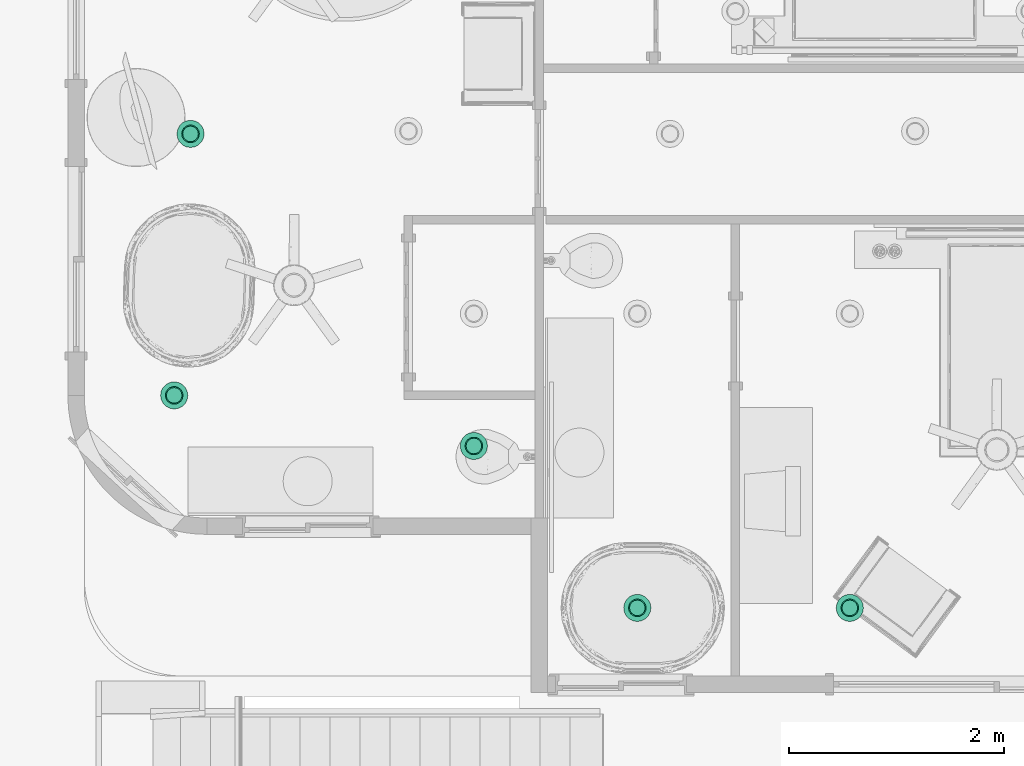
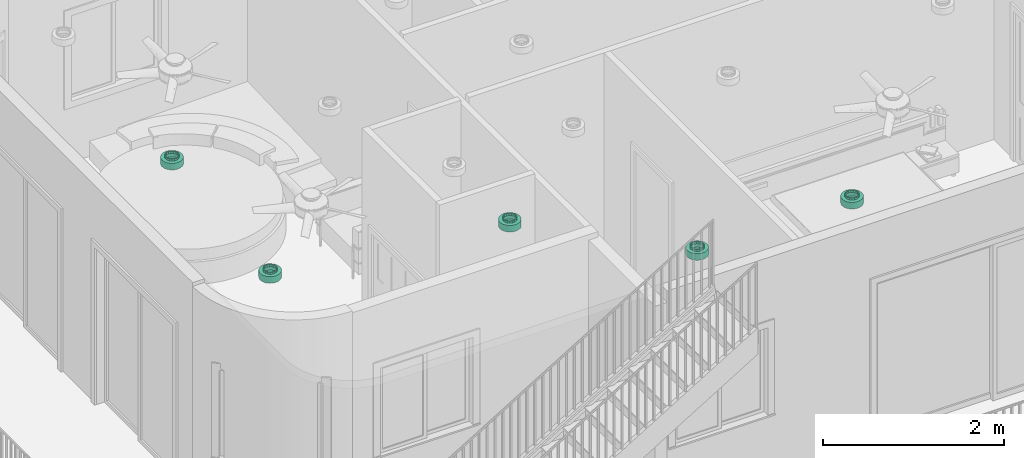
# One storey, part 12 of 28: 5 flow terminals.
"""IFC2X3 building model written with IfcOpenShell, lengths in feet."""

from ifc_helpers import new_model, entity, si_unit, converted_unit, derived_unit, direction, frame, origin, place, context, subcontext, project, spatial, faceted_brep, source, transform, mapped, material, material_list, type_object, type_shapes, element, save


model = new_model("IFC2X3")

# Units and contexts
model_context = context("Model", 3, precision=0.0001, world=origin(), true_north=direction((6.12303176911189e-17, 1.0)))
body_context = subcontext(model_context, "Body", "Model", "MODEL_VIEW")
ifc_project = project(units=[converted_unit("LENGTHUNIT", "FOOT", entity("IfcRatioMeasure", 0.3048), si_unit("LENGTHUNIT", "METRE"), dimensions=[1, 0, 0, 0, 0, 0, 0]), converted_unit("AREAUNIT", "SQUARE FOOT", entity("IfcRatioMeasure", 0.09290304), si_unit("AREAUNIT", "SQUARE_METRE"), dimensions=[2, 0, 0, 0, 0, 0, 0]), converted_unit("VOLUMEUNIT", "CUBIC FOOT", entity("IfcRatioMeasure", 0.028316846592), si_unit("VOLUMEUNIT", "CUBIC_METRE"), dimensions=[3, 0, 0, 0, 0, 0, 0]), converted_unit("PLANEANGLEUNIT", "DEGREE", entity("IfcRatioMeasure", 0.0174532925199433), si_unit("PLANEANGLEUNIT", "RADIAN"), dimensions=[0, 0, 0, 0, 0, 0, 0]), si_unit("MASSUNIT", "GRAM", prefix="KILO"), derived_unit("MASSDENSITYUNIT", [(si_unit("MASSUNIT", "GRAM", prefix="KILO"), 1), (si_unit("LENGTHUNIT", "METRE"), -3)]), si_unit("TIMEUNIT", "SECOND"), si_unit("FREQUENCYUNIT", "HERTZ"), si_unit("THERMODYNAMICTEMPERATUREUNIT", "DEGREE_CELSIUS"), derived_unit("THERMALTRANSMITTANCEUNIT", [(si_unit("MASSUNIT", "GRAM", prefix="KILO"), 1), (si_unit("THERMODYNAMICTEMPERATUREUNIT", "KELVIN"), -1), (si_unit("TIMEUNIT", "SECOND"), -3)]), derived_unit("VOLUMETRICFLOWRATEUNIT", [(si_unit("LENGTHUNIT", "METRE"), 3), (si_unit("TIMEUNIT", "SECOND"), -1)]), si_unit("ELECTRICCURRENTUNIT", "AMPERE"), si_unit("ELECTRICVOLTAGEUNIT", "VOLT"), si_unit("POWERUNIT", "WATT"), si_unit("FORCEUNIT", "NEWTON"), si_unit("ILLUMINANCEUNIT", "LUX"), si_unit("LUMINOUSFLUXUNIT", "LUMEN"), si_unit("LUMINOUSINTENSITYUNIT", "CANDELA"), derived_unit("USERDEFINED", [(si_unit("MASSUNIT", "GRAM", prefix="KILO"), -1), (si_unit("LENGTHUNIT", "METRE"), -2), (si_unit("TIMEUNIT", "SECOND"), 3), (si_unit("LUMINOUSFLUXUNIT", "LUMEN"), 1)]), derived_unit("LINEARVELOCITYUNIT", [(si_unit("LENGTHUNIT", "METRE"), 1), (si_unit("TIMEUNIT", "SECOND"), -1)]), si_unit("PRESSUREUNIT", "PASCAL"), derived_unit("USERDEFINED", [(si_unit("LENGTHUNIT", "METRE"), -2), (si_unit("MASSUNIT", "GRAM", prefix="KILO"), 1), (si_unit("TIMEUNIT", "SECOND"), -2)])], contexts=[model_context])

# Site, building, storey
site_placement = place(None, origin())
site = spatial("IfcSite", under=ifc_project, at=site_placement, Name="表面", CompositionType="ELEMENT")
building_placement = place(site_placement, origin())
building = spatial("IfcBuilding", under=site, at=building_placement, CompositionType="ELEMENT")
storey_placement = place(building_placement, frame((0.0, 0.0, 10.0)))
storey = spatial("IfcBuildingStorey", under=building, at=storey_placement, Name="Level 2", CompositionType="ELEMENT", Elevation=9.99999999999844)

# Flow terminals
ifc_material_1 = material(Name="Metal - Paint Finish - Dark Gray, Matte")
ifc_material_2 = material(Name="Glass - White, High Luminance")
ifc_material_list_1 = material_list([ifc_material_1, ifc_material_2])
ifc_material_list_2 = material_list([ifc_material_1, ifc_material_2])
light_fixture_type = type_object("IfcLightFixtureType", Name="100W - 277V", PredefinedType="NOTDEFINED", material=ifc_material_list_2)
shared_shape = source(origin(), body_context, "Body", "Brep", [
    faceted_brep([(0.557291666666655, 0.187326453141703, 0.374999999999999), (0.598651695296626, 0.245098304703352, 0.374999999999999), (0.558098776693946, 0.218001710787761, 0.374999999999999), (0.629345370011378, 0.247786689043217, 0.374999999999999), (0.517545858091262, 0.190905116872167, 0.374999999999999), (0.468904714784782, 0.155156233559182, 0.374999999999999), (0.625748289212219, 0.285651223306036, 0.374999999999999), (0.65284488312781, 0.326204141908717, 0.374999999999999), (0.676375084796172, 0.329244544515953, 0.374999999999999), (0.6623599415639, 0.374039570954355, 0.374999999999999), (0.671874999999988, 0.42187499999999, 0.374999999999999), (0.692708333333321, 0.421874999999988, 0.374999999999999), (0.676375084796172, 0.514505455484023, 0.374999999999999), (0.662359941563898, 0.469710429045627, 0.374999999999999), (0.652844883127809, 0.517545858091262, 0.374999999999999), (0.629345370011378, 0.595963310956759, 0.374999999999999), (0.625748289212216, 0.558098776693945, 0.374999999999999), (0.598651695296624, 0.598651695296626, 0.374999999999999), (0.557291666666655, 0.656423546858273, 0.374999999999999), (0.55809877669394, 0.625748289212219, 0.374999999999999), (0.517545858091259, 0.65284488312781, 0.374999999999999), (0.468904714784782, 0.688593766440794, 0.374999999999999), (0.469710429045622, 0.662359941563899, 0.374999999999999), (0.421874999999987, 0.671874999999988, 0.374999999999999), (0.374845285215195, 0.688593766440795, 0.374999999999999), (0.374039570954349, 0.662359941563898, 0.374999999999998), (0.326204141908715, 0.652844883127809, 0.374999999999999), (0.286458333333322, 0.656423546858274, 0.374999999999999), (0.285651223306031, 0.625748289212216, 0.374999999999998), (0.245098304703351, 0.598651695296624, 0.374999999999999), (0.214404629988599, 0.59596331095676, 0.374999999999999), (0.218001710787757, 0.558098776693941, 0.374999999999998), (0.190905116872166, 0.51754585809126, 0.374999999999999), (0.167374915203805, 0.514505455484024, 0.374999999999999), (0.181390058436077, 0.469710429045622, 0.374999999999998), (0.171874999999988, 0.421874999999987, 0.374999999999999), (0.151041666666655, 0.421874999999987, 0.374999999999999), (0.167374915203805, 0.329244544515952, 0.374999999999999), (0.181390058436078, 0.374039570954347, 0.374999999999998), (0.190905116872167, 0.326204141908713, 0.374999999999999), (0.214404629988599, 0.247786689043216, 0.374999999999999), (0.218001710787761, 0.28565122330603, 0.374999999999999), (0.245098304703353, 0.245098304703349, 0.374999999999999), (0.286458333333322, 0.187326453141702, 0.374999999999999), (0.285651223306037, 0.218001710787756, 0.374999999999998), (0.326204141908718, 0.190905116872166, 0.374999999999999), (0.374845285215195, 0.155156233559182, 0.374999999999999), (0.42187499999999, 0.171874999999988, 0.374999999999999), (0.374039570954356, 0.181390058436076, 0.374999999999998), (0.469710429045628, 0.181390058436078, 0.374999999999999), (0.557291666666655, 0.656423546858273, 0.291666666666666), (0.598651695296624, 0.598651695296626, 0.291666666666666), (0.55809877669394, 0.625748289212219, 0.291666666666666), (0.629345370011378, 0.595963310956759, 0.291666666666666), (0.517545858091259, 0.65284488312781, 0.291666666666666), (0.468904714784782, 0.688593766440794, 0.291666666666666), (0.625748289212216, 0.558098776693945, 0.291666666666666), (0.652844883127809, 0.517545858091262, 0.291666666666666), (0.676375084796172, 0.514505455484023, 0.291666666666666), (0.662359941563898, 0.469710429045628, 0.291666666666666), (0.671874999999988, 0.42187499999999, 0.291666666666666), (0.692708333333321, 0.421874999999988, 0.291666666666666), (0.676375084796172, 0.329244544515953, 0.291666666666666), (0.659760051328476, 0.36096904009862, 0.291666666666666), (0.65284488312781, 0.326204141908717, 0.291666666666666), (0.629345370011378, 0.247786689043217, 0.291666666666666), (0.625748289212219, 0.285651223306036, 0.291666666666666), (0.598651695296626, 0.245098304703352, 0.291666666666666), (0.557291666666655, 0.187326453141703, 0.291666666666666), (0.558098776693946, 0.218001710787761, 0.291666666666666), (0.517545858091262, 0.190905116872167, 0.291666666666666), (0.468904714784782, 0.155156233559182, 0.291666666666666), (0.469710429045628, 0.181390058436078, 0.291666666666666), (0.42187499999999, 0.171874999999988, 0.291666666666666), (0.374845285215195, 0.155156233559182, 0.291666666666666), (0.374039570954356, 0.181390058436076, 0.291666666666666), (0.326204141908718, 0.190905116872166, 0.291666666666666), (0.286458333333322, 0.187326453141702, 0.291666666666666), (0.285651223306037, 0.218001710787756, 0.291666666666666), (0.245098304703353, 0.245098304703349, 0.291666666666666), (0.214404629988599, 0.247786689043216, 0.291666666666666), (0.218001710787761, 0.28565122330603, 0.291666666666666), (0.190905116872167, 0.326204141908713, 0.291666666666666), (0.167374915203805, 0.329244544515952, 0.291666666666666), (0.181390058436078, 0.374039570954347, 0.291666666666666), (0.171874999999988, 0.421874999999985, 0.291666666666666), (0.151041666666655, 0.421874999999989, 0.291666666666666), (0.167374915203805, 0.514505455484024, 0.291666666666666), (0.183989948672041, 0.482780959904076, 0.291666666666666), (0.190905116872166, 0.51754585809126, 0.291666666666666), (0.214404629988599, 0.59596331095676, 0.291666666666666), (0.218001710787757, 0.558098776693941, 0.291666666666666), (0.245098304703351, 0.598651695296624, 0.291666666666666), (0.286458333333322, 0.656423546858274, 0.291666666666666), (0.285651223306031, 0.625748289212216, 0.291666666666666), (0.326204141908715, 0.652844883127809, 0.291666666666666), (0.374845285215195, 0.688593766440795, 0.291666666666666), (0.421874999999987, 0.671874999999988, 0.291666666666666), (0.374039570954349, 0.662359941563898, 0.291666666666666), (0.469710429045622, 0.662359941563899, 0.291666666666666)], [[[0, 1, 2]], [[1, 0, 3]], [[0, 2, 4]], [[4, 5, 0]], [[3, 6, 1]], [[3, 7, 6]], [[7, 3, 8]], [[8, 9, 7]], [[8, 10, 9]], [[10, 8, 11]], [[10, 11, 12]], [[12, 13, 10]], [[12, 14, 13]], [[15, 14, 12]], [[15, 16, 14]], [[15, 17, 16]], [[18, 17, 15]], [[18, 19, 17]], [[18, 20, 19]], [[21, 20, 18]], [[21, 22, 20]], [[21, 23, 22]], [[24, 23, 21]], [[24, 25, 23]], [[24, 26, 25]], [[27, 26, 24]], [[27, 28, 26]], [[27, 29, 28]], [[29, 27, 30]], [[30, 31, 29]], [[30, 32, 31]], [[32, 30, 33]], [[33, 34, 32]], [[33, 35, 34]], [[36, 35, 33]], [[37, 35, 36]], [[37, 38, 35]], [[37, 39, 38]], [[39, 37, 40]], [[40, 41, 39]], [[40, 42, 41]], [[42, 40, 43]], [[43, 44, 42]], [[43, 45, 44]], [[45, 43, 46]], [[47, 46, 5]], [[46, 47, 48]], [[46, 48, 45]], [[5, 4, 49]], [[5, 49, 47]], [[50, 51, 52]], [[51, 50, 53]], [[50, 52, 54]], [[54, 55, 50]], [[53, 56, 51]], [[53, 57, 56]], [[57, 53, 58]], [[58, 59, 57]], [[58, 60, 59]], [[60, 58, 61]], [[60, 61, 62]], [[62, 63, 60]], [[62, 64, 63]], [[65, 64, 62]], [[65, 66, 64]], [[65, 67, 66]], [[68, 67, 65]], [[68, 69, 67]], [[68, 70, 69]], [[71, 70, 68]], [[71, 72, 70]], [[71, 73, 72]], [[74, 73, 71]], [[74, 75, 73]], [[74, 76, 75]], [[77, 76, 74]], [[77, 78, 76]], [[77, 79, 78]], [[79, 77, 80]], [[80, 81, 79]], [[80, 82, 81]], [[82, 80, 83]], [[83, 84, 82]], [[83, 85, 84]], [[86, 85, 83]], [[87, 85, 86]], [[87, 88, 85]], [[87, 89, 88]], [[89, 87, 90]], [[90, 91, 89]], [[90, 92, 91]], [[92, 90, 93]], [[93, 94, 92]], [[93, 95, 94]], [[95, 93, 96]], [[97, 96, 55]], [[96, 97, 98]], [[96, 98, 95]], [[55, 54, 99]], [[55, 99, 97]], [[37, 36, 86, 83]], [[43, 40, 80, 77]], [[83, 80, 40, 37]], [[77, 74, 46, 43]], [[74, 71, 5, 46]], [[0, 5, 71, 68]], [[8, 3, 65, 62]], [[68, 65, 3, 0]], [[62, 61, 11, 8]], [[12, 11, 61, 58]], [[18, 15, 53, 50]], [[58, 53, 15, 12]], [[50, 55, 21, 18]], [[55, 96, 24, 21]], [[27, 24, 96, 93]], [[87, 33, 30, 90]], [[90, 30, 27, 93]], [[33, 87, 86, 36]], [[34, 35, 85, 88, 89, 32]], [[89, 91, 92, 29, 31, 32]], [[59, 60, 10, 13, 14, 57]], [[92, 94, 95, 26, 28, 29]], [[23, 25, 26, 95, 98, 97]], [[97, 99, 54, 20, 22, 23]], [[16, 17, 51, 56, 57, 14]], [[54, 52, 51, 17, 19, 20]], [[9, 10, 60, 63, 64, 7]], [[64, 66, 67, 1, 6, 7]], [[84, 85, 35, 38, 39, 82]], [[67, 69, 70, 4, 2, 1]], [[47, 49, 4, 70, 72, 73]], [[73, 75, 76, 45, 48, 47]], [[41, 42, 79, 81, 82, 39]], [[76, 78, 79, 42, 44, 45]]]),
    faceted_brep([(0.671874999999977, 0.421874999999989, 0.291666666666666), (0.838541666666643, 0.421874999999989, 0.291666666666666), (0.81814854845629, 0.550632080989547, 0.291666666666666), (0.818148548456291, 0.293117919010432, 0.291666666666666), (0.659760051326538, 0.360969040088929, 0.291666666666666), (0.662359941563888, 0.469710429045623, 0.291666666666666), (0.6528448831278, 0.326204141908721, 0.291666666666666), (0.758965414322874, 0.176964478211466, 0.291666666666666), (0.625748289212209, 0.28565122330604, 0.291666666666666), (0.598651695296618, 0.24509830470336, 0.291666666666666), (0.666785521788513, 0.084784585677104, 0.291666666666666), (0.558098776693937, 0.218001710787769, 0.291666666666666), (0.517545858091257, 0.190905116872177, 0.291666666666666), (0.550632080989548, 0.025601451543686, 0.291666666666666), (0.469710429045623, 0.181390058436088, 0.291666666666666), (0.421874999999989, 0.171874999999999, 0.291666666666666), (0.42187499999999, 0.00520833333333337, 0.291666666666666), (0.293117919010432, 0.0256014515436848, 0.291666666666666), (0.374039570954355, 0.181390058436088, 0.291666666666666), (0.326204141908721, 0.190905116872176, 0.291666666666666), (0.176964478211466, 0.0847845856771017, 0.291666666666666), (0.285651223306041, 0.218001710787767, 0.291666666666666), (0.24509830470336, 0.245098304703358, 0.291666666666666), (0.0847845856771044, 0.176964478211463, 0.291666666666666), (0.218001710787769, 0.285651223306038, 0.291666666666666), (0.190905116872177, 0.326204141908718, 0.291666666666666), (0.0256014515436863, 0.293117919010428, 0.291666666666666), (0.181390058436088, 0.374039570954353, 0.291666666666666), (0.171874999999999, 0.421874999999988, 0.291666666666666), (0.00520833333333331, 0.421874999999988, 0.291666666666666), (0.0256014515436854, 0.550632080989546, 0.291666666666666), (0.183989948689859, 0.482780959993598, 0.291666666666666), (0.190905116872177, 0.517545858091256, 0.291666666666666), (0.0847845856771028, 0.666785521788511, 0.291666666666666), (0.218001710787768, 0.558098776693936, 0.291666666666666), (0.245098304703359, 0.598651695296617, 0.291666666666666), (0.176964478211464, 0.758965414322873, 0.291666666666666), (0.285651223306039, 0.625748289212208, 0.291666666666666), (0.32620414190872, 0.652844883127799, 0.291666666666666), (0.29311791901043, 0.81814854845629, 0.291666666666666), (0.374039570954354, 0.662359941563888, 0.291666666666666), (0.421874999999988, 0.671874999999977, 0.291666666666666), (0.421874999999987, 0.838541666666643, 0.291666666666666), (0.550632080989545, 0.818148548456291, 0.291666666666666), (0.469710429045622, 0.662359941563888, 0.291666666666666), (0.517545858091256, 0.6528448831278, 0.291666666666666), (0.666785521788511, 0.758965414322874, 0.291666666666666), (0.558098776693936, 0.625748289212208, 0.291666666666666), (0.598651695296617, 0.598651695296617, 0.291666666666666), (0.758965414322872, 0.666785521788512, 0.291666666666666), (0.625748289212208, 0.558098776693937, 0.291666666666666), (0.652844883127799, 0.517545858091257, 0.291666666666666), (0.0256014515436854, 0.550632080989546, 0.0), (0.00520833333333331, 0.421874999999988, 0.0), (0.0847845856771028, 0.666785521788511, 0.0), (0.176964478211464, 0.758965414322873, 0.0), (0.29311791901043, 0.818148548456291, 0.0), (0.421874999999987, 0.838541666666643, 0.0), (0.550632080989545, 0.818148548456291, 0.0), (0.666785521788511, 0.758965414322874, 0.0), (0.758965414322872, 0.666785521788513, 0.0), (0.81814854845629, 0.550632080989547, 0.0), (0.838541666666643, 0.42187499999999, 0.0), (0.818148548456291, 0.293117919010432, 0.0), (0.666785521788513, 0.0847845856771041, 0.0), (0.550632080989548, 0.025601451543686, 0.0), (0.42187499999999, 0.00520833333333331, 0.0), (0.758965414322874, 0.176964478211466, 0.0), (0.293117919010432, 0.0256014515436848, 0.0), (0.176964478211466, 0.0847845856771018, 0.0), (0.0847845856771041, 0.176964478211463, 0.0), (0.025601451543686, 0.293117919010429, 0.0), (0.421874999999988, 0.421874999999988, 0.0), (0.808241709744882, 0.547413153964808, 0.0104166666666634), (0.421874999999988, 0.421874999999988, 0.0104166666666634), (0.828124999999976, 0.421874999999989, 0.0104166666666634), (0.7505381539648, 0.660662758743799, 0.0104166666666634), (0.660662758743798, 0.750538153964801, 0.0104166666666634), (0.547413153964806, 0.808241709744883, 0.0104166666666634), (0.421874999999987, 0.828124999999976, 0.0104166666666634), (0.296336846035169, 0.808241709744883, 0.0104166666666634), (0.183087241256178, 0.750538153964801, 0.0104166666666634), (0.0932118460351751, 0.660662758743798, 0.0104166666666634), (0.0355082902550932, 0.547413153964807, 0.0104166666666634), (0.0156249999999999, 0.421874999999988, 0.0104166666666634), (0.0355082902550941, 0.296336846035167, 0.0104166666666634), (0.0932118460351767, 0.183087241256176, 0.0104166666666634), (0.18308724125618, 0.093211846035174, 0.0104166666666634), (0.296336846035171, 0.0355082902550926, 0.0104166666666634), (0.42187499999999, 0.0156249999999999, 0.0104166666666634), (0.547413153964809, 0.0355082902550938, 0.0104166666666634), (0.6606627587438, 0.0932118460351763, 0.0104166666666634), (0.750538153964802, 0.183087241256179, 0.0104166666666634), (0.808241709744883, 0.296336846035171, 0.0104166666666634), (0.0355082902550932, 0.547413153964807, 0.281249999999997), (0.0156249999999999, 0.421874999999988, 0.281249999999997), (0.0932118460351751, 0.660662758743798, 0.281249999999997), (0.183087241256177, 0.750538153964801, 0.281249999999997), (0.296336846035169, 0.808241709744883, 0.281249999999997), (0.421874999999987, 0.828124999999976, 0.281249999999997), (0.660662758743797, 0.750538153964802, 0.281249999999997), (0.547413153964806, 0.808241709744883, 0.281249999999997), (0.808241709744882, 0.547413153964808, 0.281249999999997), (0.7505381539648, 0.660662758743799, 0.281249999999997), (0.828124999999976, 0.42187499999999, 0.281249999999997), (0.808241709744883, 0.296336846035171, 0.281249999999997), (0.547413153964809, 0.0355082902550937, 0.281249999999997), (0.6606627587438, 0.0932118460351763, 0.281249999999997), (0.42187499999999, 0.0156249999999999, 0.281249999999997), (0.750538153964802, 0.183087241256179, 0.281249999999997), (0.183087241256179, 0.0932118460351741, 0.281249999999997), (0.296336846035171, 0.0355082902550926, 0.281249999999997), (0.0355082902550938, 0.296336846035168, 0.281249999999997), (0.0932118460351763, 0.183087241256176, 0.281249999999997), (0.66145833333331, 0.421874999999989, 0.281249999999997), (0.650878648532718, 0.475062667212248, 0.281249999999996), (0.643221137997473, 0.513559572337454, 0.281249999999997), (0.650878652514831, 0.368687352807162, 0.281249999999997), (0.643221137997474, 0.330190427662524, 0.281249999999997), (0.617253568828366, 0.291327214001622, 0.281249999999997), (0.591285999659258, 0.25246400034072, 0.281249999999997), (0.552422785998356, 0.226496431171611, 0.281249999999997), (0.513559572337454, 0.200528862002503, 0.281249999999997), (0.467717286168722, 0.191410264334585, 0.281249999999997), (0.421874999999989, 0.182291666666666, 0.281249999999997), (0.376032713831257, 0.191410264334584, 0.281249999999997), (0.330190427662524, 0.200528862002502, 0.281249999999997), (0.291327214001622, 0.22649643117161, 0.281249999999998), (0.25246400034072, 0.252464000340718, 0.281249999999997), (0.226496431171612, 0.29132721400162, 0.281249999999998), (0.200528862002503, 0.330190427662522, 0.281249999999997), (0.191410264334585, 0.376032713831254, 0.281249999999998), (0.182291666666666, 0.421874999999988, 0.281249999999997), (0.192871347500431, 0.47506264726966, 0.281249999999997), (0.200528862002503, 0.513559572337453, 0.281249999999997), (0.226496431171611, 0.552422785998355, 0.281249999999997), (0.252464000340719, 0.591285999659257, 0.281249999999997), (0.291327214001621, 0.617253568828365, 0.281249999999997), (0.330190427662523, 0.643221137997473, 0.281249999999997), (0.376032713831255, 0.652339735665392, 0.281249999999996), (0.421874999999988, 0.66145833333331, 0.281249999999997), (0.46771728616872, 0.652339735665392, 0.281249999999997), (0.513559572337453, 0.643221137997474, 0.281249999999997), (0.591285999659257, 0.591285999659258, 0.281249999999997), (0.552422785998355, 0.617253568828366, 0.281249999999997), (0.617253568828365, 0.552422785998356, 0.281249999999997), (0.191410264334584, 0.467717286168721, 0.375), (0.182291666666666, 0.421874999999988, 0.375), (0.200528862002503, 0.513559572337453, 0.375), (0.252464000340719, 0.591285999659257, 0.375), (0.226496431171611, 0.552422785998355, 0.375), (0.330190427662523, 0.643221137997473, 0.375), (0.291327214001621, 0.617253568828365, 0.375), (0.421874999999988, 0.66145833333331, 0.375), (0.376032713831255, 0.652339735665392, 0.375), (0.552422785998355, 0.617253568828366, 0.375), (0.513559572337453, 0.643221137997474, 0.375), (0.591285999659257, 0.591285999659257, 0.375), (0.643221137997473, 0.513559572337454, 0.375), (0.617253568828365, 0.552422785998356, 0.375), (0.46771728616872, 0.652339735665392, 0.375), (0.652339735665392, 0.467717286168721, 0.375), (0.66145833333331, 0.421874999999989, 0.375), (0.652339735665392, 0.376032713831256, 0.375), (0.643221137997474, 0.330190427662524, 0.375), (0.591285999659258, 0.25246400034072, 0.375), (0.617253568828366, 0.291327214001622, 0.375), (0.513559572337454, 0.200528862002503, 0.375), (0.552422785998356, 0.226496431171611, 0.375), (0.421874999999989, 0.182291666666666, 0.375), (0.467717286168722, 0.191410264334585, 0.375), (0.200528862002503, 0.330190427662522, 0.375), (0.192871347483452, 0.368687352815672, 0.375), (0.25246400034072, 0.252464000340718, 0.375), (0.291327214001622, 0.22649643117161, 0.375), (0.330190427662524, 0.200528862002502, 0.375), (0.226496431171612, 0.29132721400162, 0.375), (0.376032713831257, 0.191410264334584, 0.375), (0.671874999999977, 0.421874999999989, 0.375), (0.659760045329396, 0.482780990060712, 0.375), (0.652844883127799, 0.517545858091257, 0.375), (0.662359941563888, 0.374039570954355, 0.375), (0.6528448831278, 0.326204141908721, 0.375), (0.625748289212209, 0.28565122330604, 0.375), (0.598651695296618, 0.24509830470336, 0.375), (0.558098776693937, 0.218001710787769, 0.375), (0.517545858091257, 0.190905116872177, 0.375), (0.469710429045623, 0.181390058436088, 0.375), (0.421874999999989, 0.171874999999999, 0.375), (0.374039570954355, 0.181390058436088, 0.375), (0.326204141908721, 0.190905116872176, 0.375), (0.285651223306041, 0.218001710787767, 0.375), (0.24509830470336, 0.245098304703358, 0.375), (0.218001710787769, 0.285651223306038, 0.375), (0.190905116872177, 0.326204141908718, 0.375), (0.183989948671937, 0.360969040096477, 0.375), (0.171874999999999, 0.421874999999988, 0.375), (0.181390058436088, 0.469710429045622, 0.375), (0.190905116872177, 0.517545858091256, 0.375), (0.218001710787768, 0.558098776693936, 0.375), (0.245098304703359, 0.598651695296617, 0.375), (0.285651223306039, 0.625748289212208, 0.375), (0.32620414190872, 0.652844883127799, 0.375), (0.374039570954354, 0.662359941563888, 0.375), (0.421874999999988, 0.671874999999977, 0.375), (0.469710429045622, 0.662359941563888, 0.375), (0.517545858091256, 0.6528448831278, 0.375), (0.558098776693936, 0.625748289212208, 0.375), (0.598651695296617, 0.598651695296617, 0.375), (0.625748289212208, 0.558098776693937, 0.375)], [[[0, 1, 2]], [[0, 3, 1]], [[3, 0, 4]], [[2, 5, 0]], [[3, 4, 6]], [[7, 3, 6]], [[7, 6, 8]], [[7, 8, 9]], [[10, 7, 9]], [[10, 9, 11]], [[10, 11, 12]], [[10, 12, 13]], [[13, 12, 14]], [[13, 14, 15]], [[16, 13, 15]], [[16, 15, 17]], [[17, 15, 18]], [[17, 18, 19]], [[17, 19, 20]], [[20, 19, 21]], [[20, 21, 22]], [[23, 20, 22]], [[23, 22, 24]], [[23, 24, 25]], [[25, 26, 23]], [[26, 25, 27]], [[26, 27, 28]], [[29, 26, 28]], [[30, 29, 28]], [[30, 28, 31]], [[30, 31, 32]], [[30, 32, 33]], [[33, 32, 34]], [[33, 34, 35]], [[36, 33, 35]], [[36, 35, 37]], [[36, 37, 38]], [[39, 36, 38]], [[39, 38, 40]], [[39, 40, 41]], [[42, 39, 41]], [[42, 41, 43]], [[43, 41, 44]], [[43, 44, 45]], [[46, 43, 45]], [[46, 45, 47]], [[46, 47, 48]], [[46, 48, 49]], [[49, 48, 50]], [[49, 50, 51]], [[49, 51, 2]], [[2, 51, 5]], [[52, 53, 29, 30]], [[30, 33, 54, 52]], [[36, 55, 54, 33]], [[55, 36, 39, 56]], [[56, 39, 42, 57]], [[58, 43, 46, 59]], [[60, 49, 2, 61]], [[46, 49, 60, 59]], [[61, 2, 1, 62]], [[43, 58, 57, 42]], [[1, 3, 63, 62]], [[64, 10, 13, 65]], [[16, 66, 65, 13]], [[63, 3, 7, 67]], [[10, 64, 67, 7]], [[68, 17, 20, 69]], [[70, 23, 26, 71]], [[20, 23, 70, 69]], [[71, 26, 29, 53]], [[17, 68, 66, 16]], [[62, 72, 61]], [[62, 63, 72]], [[72, 63, 67]], [[72, 67, 64]], [[72, 64, 65]], [[65, 66, 72]], [[68, 72, 66]], [[72, 68, 69]], [[72, 69, 70]], [[71, 72, 70]], [[72, 71, 53]], [[72, 53, 52]], [[72, 52, 54]], [[54, 55, 72]], [[72, 55, 56]], [[56, 57, 72]], [[72, 57, 58]], [[59, 72, 58]], [[72, 59, 60]], [[61, 72, 60]], [[73, 74, 75]], [[76, 74, 73]], [[76, 77, 74]], [[78, 74, 77]], [[78, 79, 74]], [[74, 79, 80]], [[80, 81, 74]], [[74, 81, 82]], [[82, 83, 74]], [[83, 84, 74]], [[84, 85, 74]], [[86, 74, 85]], [[86, 87, 74]], [[87, 88, 74]], [[89, 74, 88]], [[74, 89, 90]], [[90, 91, 74]], [[91, 92, 74]], [[92, 93, 74]], [[74, 93, 75]], [[94, 95, 84, 83]], [[82, 96, 94, 83]], [[96, 82, 81, 97]], [[81, 80, 98, 97]], [[98, 80, 79, 99]], [[100, 101, 78, 77]], [[102, 103, 76, 73]], [[77, 76, 103, 100]], [[104, 102, 73, 75]], [[79, 78, 101, 99]], [[105, 104, 75, 93]], [[106, 107, 91, 90]], [[108, 106, 90, 89]], [[93, 92, 109, 105]], [[109, 92, 91, 107]], [[110, 111, 88, 87]], [[112, 113, 86, 85]], [[87, 86, 113, 110]], [[95, 112, 85, 84]], [[89, 88, 111, 108]], [[102, 104, 114]], [[102, 114, 115]], [[102, 115, 116]], [[102, 116, 103]], [[104, 105, 114]], [[105, 117, 114]], [[105, 118, 117]], [[118, 105, 109]], [[109, 119, 118]], [[109, 120, 119]], [[120, 109, 107]], [[107, 121, 120]], [[107, 122, 121]], [[106, 122, 107]], [[106, 123, 122]], [[106, 124, 123]], [[124, 106, 108]], [[111, 124, 108]], [[111, 125, 124]], [[111, 126, 125]], [[110, 126, 111]], [[110, 127, 126]], [[110, 128, 127]], [[128, 110, 113]], [[113, 129, 128]], [[113, 130, 129]], [[113, 112, 130]], [[112, 131, 130]], [[112, 132, 131]], [[132, 112, 95]], [[132, 95, 94]], [[94, 133, 132]], [[94, 134, 133]], [[96, 134, 94]], [[96, 135, 134]], [[96, 136, 135]], [[136, 96, 97]], [[97, 137, 136]], [[97, 138, 137]], [[138, 97, 98]], [[98, 139, 138]], [[98, 140, 139]], [[140, 98, 99]], [[101, 140, 99]], [[101, 141, 140]], [[101, 142, 141]], [[142, 101, 100]], [[103, 143, 100]], [[100, 143, 144]], [[100, 144, 142]], [[103, 116, 145]], [[103, 145, 143]], [[146, 147, 132, 133, 134, 148]], [[136, 149, 150, 148, 134, 135]], [[136, 137, 138, 151, 152, 149]], [[151, 138, 139, 140, 153, 154]], [[155, 156, 142, 144, 143, 157]], [[116, 158, 159, 157, 143, 145]], [[153, 140, 141, 142, 156, 160]], [[161, 158, 116, 115, 114, 162]], [[163, 162, 114, 117, 118, 164]], [[120, 165, 166, 164, 118, 119]], [[120, 121, 122, 167, 168, 165]], [[123, 124, 169, 170, 167, 122]], [[171, 130, 131, 132, 147, 172]], [[128, 173, 174, 175, 126, 127]], [[128, 129, 130, 171, 176, 173]], [[175, 177, 169, 124, 125, 126]], [[162, 178, 179]], [[162, 179, 180]], [[180, 161, 162]], [[162, 181, 178]], [[162, 182, 181]], [[182, 162, 163]], [[182, 163, 164]], [[164, 183, 182]], [[164, 184, 183]], [[184, 164, 166]], [[184, 166, 165]], [[165, 185, 184]], [[165, 186, 185]], [[186, 165, 168]], [[186, 168, 167]], [[167, 187, 186]], [[167, 188, 187]], [[188, 167, 170]], [[188, 170, 169]], [[188, 169, 177]], [[188, 177, 175]], [[175, 189, 188]], [[175, 190, 189]], [[190, 175, 174]], [[190, 174, 173]], [[173, 191, 190]], [[173, 192, 191]], [[192, 173, 176]], [[192, 176, 171]], [[171, 193, 192]], [[171, 194, 193]], [[194, 171, 172]], [[194, 172, 147]], [[147, 195, 194]], [[147, 196, 195]], [[147, 197, 196]], [[147, 198, 197]], [[198, 147, 146]], [[198, 146, 148]], [[148, 199, 198]], [[148, 200, 199]], [[200, 148, 150]], [[200, 150, 149]], [[149, 201, 200]], [[149, 202, 201]], [[202, 149, 152]], [[202, 152, 151]], [[151, 203, 202]], [[151, 204, 203]], [[204, 151, 154]], [[204, 154, 153]], [[204, 153, 160]], [[204, 160, 156]], [[156, 205, 204]], [[156, 206, 205]], [[206, 156, 155]], [[206, 155, 157]], [[157, 207, 206]], [[157, 208, 207]], [[208, 157, 159]], [[208, 159, 158]], [[158, 180, 209]], [[180, 158, 161]], [[158, 209, 208]], [[198, 32, 31, 28, 196, 197]], [[199, 200, 35, 34, 32, 198]], [[200, 201, 202, 38, 37, 35]], [[40, 38, 202, 203, 204, 41]], [[47, 45, 206, 207, 208, 48]], [[178, 0, 5, 51, 180, 179]], [[208, 209, 180, 51, 50, 48]], [[45, 44, 41, 204, 205, 206]], [[182, 6, 4, 0, 178, 181]], [[183, 184, 9, 8, 6, 182]], [[184, 185, 186, 12, 11, 9]], [[187, 188, 15, 14, 12, 186]], [[195, 196, 28, 27, 25, 194]], [[191, 192, 22, 21, 19, 190]], [[192, 193, 194, 25, 24, 22]], [[19, 18, 15, 188, 189, 190]]]),
])
type_shapes(light_fixture_type, [shared_shape])
flow_terminal_1_placement = place(storey_placement, frame((-30.9567880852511, 3.26051869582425, 9.125)))
element("IfcFlowTerminal", 1, at=flow_terminal_1_placement, inside=storey, type_object=light_fixture_type, material=ifc_material_list_1, Name="Ceiling Light - Flat Round:100W - 277V", ObjectType="100W - 277V", context=body_context, shape_type="MappedRepresentation", body=[
    mapped(shared_shape, transform((0.0, 0.0, 0.0), scale=1.0)),
])
ifc_material_list_3 = material_list([ifc_material_1, ifc_material_2])
flow_terminal_2_placement = place(storey_placement, frame((-31.4567880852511, -4.73948130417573, 9.125)))
element("IfcFlowTerminal", 2, at=flow_terminal_2_placement, inside=storey, type_object=light_fixture_type, material=ifc_material_list_3, Name="Ceiling Light - Flat Round:100W - 277V", ObjectType="100W - 277V", context=body_context, shape_type="MappedRepresentation", body=[
    mapped(shared_shape, transform((0.0, 0.0, 0.0), scale=1.0)),
])
ifc_material_list_4 = material_list([ifc_material_1, ifc_material_2])
flow_terminal_3_placement = place(storey_placement, frame((-22.2901214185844, -6.28635630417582, 9.125)))
element("IfcFlowTerminal", 3, at=flow_terminal_3_placement, inside=storey, type_object=light_fixture_type, material=ifc_material_list_4, Name="Ceiling Light - Flat Round:100W - 277V", ObjectType="100W - 277V", context=body_context, shape_type="MappedRepresentation", body=[
    mapped(shared_shape, transform((0.0, 0.0, 0.0), scale=1.0)),
])
ifc_material_list_5 = material_list([ifc_material_1, ifc_material_2])
flow_terminal_4_placement = place(storey_placement, frame((-17.2901214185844, -11.2394813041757, 9.125)))
element("IfcFlowTerminal", 4, at=flow_terminal_4_placement, inside=storey, type_object=light_fixture_type, material=ifc_material_list_5, Name="Ceiling Light - Flat Round:100W - 277V", ObjectType="100W - 277V", context=body_context, shape_type="MappedRepresentation", body=[
    mapped(shared_shape, transform((0.0, 0.0, 0.0), scale=1.0)),
])
ifc_material_list_6 = material_list([ifc_material_1, ifc_material_2])
flow_terminal_5_placement = place(storey_placement, frame((-10.7901214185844, -11.2394813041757, 9.125)))
element("IfcFlowTerminal", 5, at=flow_terminal_5_placement, inside=storey, type_object=light_fixture_type, material=ifc_material_list_6, Name="Ceiling Light - Flat Round:100W - 277V", ObjectType="100W - 277V", context=body_context, shape_type="MappedRepresentation", body=[
    mapped(shared_shape, transform((0.0, 0.0, 0.0), scale=1.0)),
])

save(model, "model.ifc")
